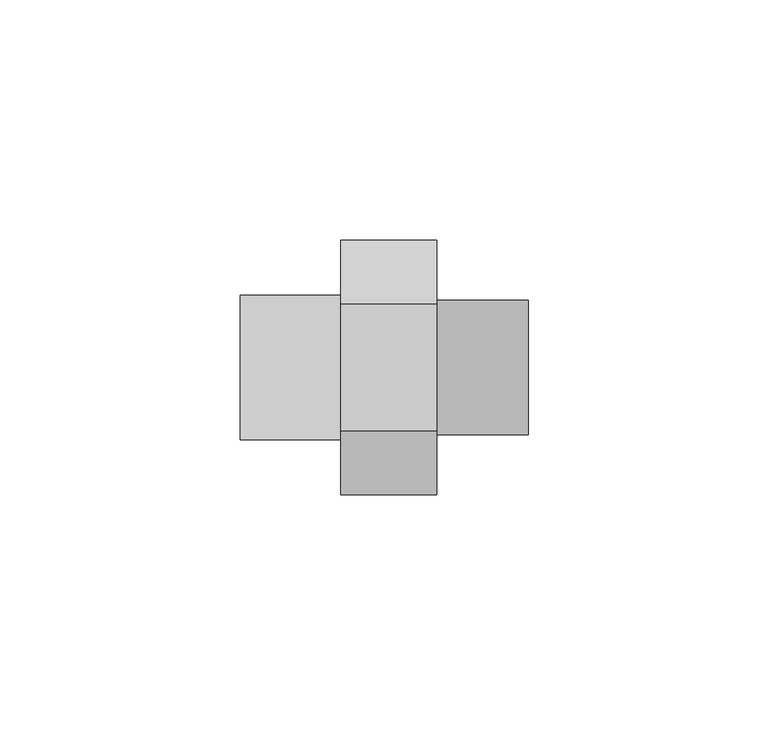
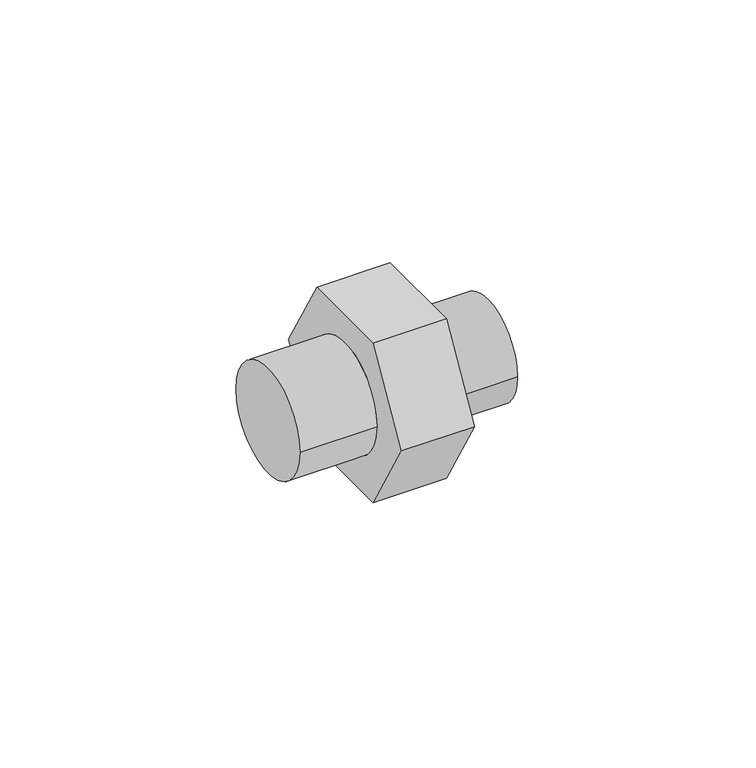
"""IFC4 building model written with IfcOpenShell, lengths in millimetres: pipe fitting geometry, 01011197 : Casquilho Duplo Redução."""

from ifc_helpers import new_model, si_unit, frame, origin, place, context, project, spatial, circle_curve, source, transform, mapped, element, save
from ifc_brep_helpers import plane_surface, cylinder_surface, advanced_brep


def pipe_fitting_2c44a6fd(model_context):
    return source(origin(), model_context, "Body", "AdvancedBrep", [
        advanced_brep(
        [(41.0, -13.2790562, 23.0), (41.0, -26.5581124, 0.0), (41.0, -13.2790562, -23.0), (41.0, 13.2790562, -23.0), (41.0, 26.5581124, 0.0), (41.0, 13.2790562, 23.0), (41.0, -13.97, 0.0), (41.0, 13.97, 0.0), (21.0, -13.2790562, 23.0), (21.0, 13.2790562, 23.0), (21.0, 26.5581124, 0.0), (21.0, 13.2790562, -23.0), (21.0, -13.2790562, -23.0), (21.0, -26.5581124, 0.0), (21.0, 15.08125, 0.0), (21.0, -15.08125, 0.0), (60.0, -13.97, 0.0), (60.0, 13.97, 0.0), (0.0, 15.08125, 0.0), (0.0, -15.08125, 0.0)],
        [
            (0, 1),
            (1, 2),
            (2, 3),
            (3, 4),
            (4, 5),
            (5, 0),
            (6, 7, circle_curve(frame((41.0, 0.0, 0.0), z_axis=(-1.0, 0.0, 0.0), x_axis=(0.0, 1.0, 0.0)), 13.97)),
            (7, 6, circle_curve(frame((41.0, 0.0, 0.0), z_axis=(-1.0, 0.0, 0.0), x_axis=(0.0, 1.0, 0.0)), 13.97)),
            (8, 9),
            (9, 10),
            (10, 11),
            (11, 12),
            (12, 13),
            (13, 8),
            (14, 15, circle_curve(frame((21.0, 0.0, 0.0), z_axis=(1.0, 0.0, 0.0), x_axis=(0.0, -1.0, 0.0)), 15.08125)),
            (15, 14, circle_curve(frame((21.0, 0.0, 0.0), z_axis=(1.0, 0.0, 0.0), x_axis=(0.0, -1.0, 0.0)), 15.08125)),
            (0, 8),
            (13, 1),
            (12, 2),
            (11, 3),
            (10, 4),
            (9, 5),
            (16, 17, circle_curve(frame((60.0, 0.0, 0.0), z_axis=(1.0, 0.0, 0.0), x_axis=(0.0, 1.0, 0.0)), 13.97)),
            (17, 16, circle_curve(frame((60.0, 0.0, 0.0), z_axis=(1.0, 0.0, 0.0), x_axis=(0.0, 1.0, 0.0)), 13.97)),
            (17, 7),
            (6, 16),
            (18, 19, circle_curve(frame((0.0, 0.0, 0.0), z_axis=(-1.0, 0.0, 0.0), x_axis=(0.0, -1.0, 0.0)), 15.08125)),
            (19, 18, circle_curve(frame((0.0, 0.0, 0.0), z_axis=(-1.0, 0.0, 0.0), x_axis=(0.0, -1.0, 0.0)), 15.08125)),
            (19, 15),
            (14, 18),
        ],
        [
            plane_surface(frame((41.0, -13.2790562, 23.0), z_axis=(1.0, 0.0, 0.0), x_axis=(0.0, -0.5000000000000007, -0.8660254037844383))),
            plane_surface(frame((21.0, -13.2790562, 23.0), z_axis=(-1.0, 0.0, 0.0), x_axis=(0.0, 0.5000000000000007, 0.8660254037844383))),
            plane_surface(frame((41.0, -13.2790562, 23.0), z_axis=(0.0, -0.8660254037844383, 0.5000000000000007), x_axis=(-1.0, 0.0, 0.0))),
            plane_surface(frame((41.0, -26.5581124, 0.0), z_axis=(0.0, -0.866025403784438, -0.5000000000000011), x_axis=(-1.0, 0.0, 0.0))),
            plane_surface(frame((41.0, -13.2790562, -23.0), z_axis=(0.0, 0.0, -1.0), x_axis=(-1.0, 0.0, 0.0))),
            plane_surface(frame((41.0, 13.2790562, -23.0), z_axis=(0.0, 0.8660254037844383, -0.5000000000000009), x_axis=(-1.0, 0.0, 0.0))),
            plane_surface(frame((41.0, 26.5581124, 0.0), z_axis=(0.0, 0.8660254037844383, 0.5000000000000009), x_axis=(-1.0, 0.0, 0.0))),
            plane_surface(frame((41.0, 13.2790562, 23.0), z_axis=(0.0, 0.0, 1.0), x_axis=(-1.0, 0.0, 0.0))),
            plane_surface(frame((60.0, 0.0, 0.0), z_axis=(1.0, 0.0, 0.0), x_axis=(0.0, 0.0, 1.0))),
            cylinder_surface(frame((41.0, 0.0, 0.0), z_axis=(-1.0, 0.0, 0.0), x_axis=(0.0, 1.0, 0.0)), 13.97),
            plane_surface(frame((0.0, 0.0, 0.0), z_axis=(-1.0, 0.0, 0.0), x_axis=(0.0, 0.0, 1.0))),
            cylinder_surface(frame((21.0, 0.0, 0.0), z_axis=(1.0, 0.0, 0.0), x_axis=(0.0, -1.0, 0.0)), 15.08125),
        ],
        [
            (0, [[1, 2, 3, 4, 5, 6], [7, 8]]),
            (1, [[9, 10, 11, 12, 13, 14], [15, 16]]),
            (2, [[-1, 17, -14, 18]]),
            (3, [[-2, -18, -13, 19]]),
            (4, [[-3, -19, -12, 20]]),
            (5, [[-4, -20, -11, 21]]),
            (6, [[-5, -21, -10, 22]]),
            (7, [[-6, -22, -9, -17]]),
            (8, [[23, 24]]),
            (9, [[-24, 25, -7, 26]]),
            (9, [[-23, -26, -8, -25]]),
            (10, [[27, 28]]),
            (11, [[-28, 29, -15, 30]]),
            (11, [[-27, -30, -16, -29]]),
        ],
    ),
    ])


if __name__ == "__main__":
    model = new_model("IFC4")
    model_context = context("Model", 3, world=origin())
    ifc_project = project(units=[si_unit("LENGTHUNIT", "METRE", prefix="MILLI")], contexts=[model_context])
    site = spatial("IfcSite", under=ifc_project)
    building = spatial("IfcBuilding", under=site)
    placement = place(None, origin())
    pipe_fitting_shape = pipe_fitting_2c44a6fd(model_context)
    element("IfcPipeFitting", 1, ObjectType="01011197 : Casquilho Duplo Redução", at=placement, inside=building, context=model_context, shape_type="MappedRepresentation", body=[
        mapped(pipe_fitting_shape, transform((0.0, 0.0, 0.0), x_axis=(1.0, 0.0, 0.0), y_axis=(0.0, 1.0, 0.0), z_axis=(0.0, 0.0, 1.0))),
    ])
    save(model, "model.ifc")
